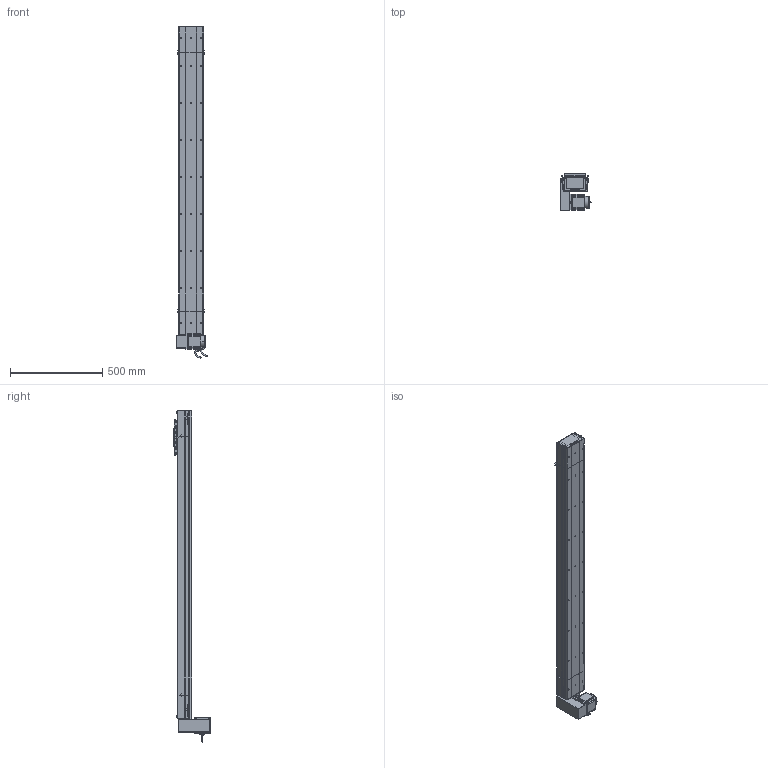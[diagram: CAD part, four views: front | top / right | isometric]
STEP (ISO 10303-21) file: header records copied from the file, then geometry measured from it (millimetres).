
FILE_DESCRIPTION (( 'STEP AP214' ), '1' );
FILE_NAME ('D14 CBH S1400 RU.STEP', '2010-06-30T06:50:24', ( 'Conseil Régional Haute-Normandie' ), ( 'Conseil Régional Haute-Normandie' ), 'SwSTEP 2.0', 'SolidWorks 2010', '' );
FILE_SCHEMA (( 'AUTOMOTIVE_DESIGN' ));
Length unit declared in the file: millimetre
Products named in the file (28): chariot D14; chariot supérieur D14; charriot inférieur D14; Conecteur_Default; Conecteur2_Default; codeur GMB 90 70 310; corps GMB 90 70 310; avant GMB 90 70 310; GMB 90 70 310; Support moteur Head D14 CBH; plaque fermeture Head D14 CBH; vis CHC M7; plaque de bout Head D14 CBH; corps Head D14 CBH; Vis CHC M8; plaque de maintient CBH D14; couvercle Head D14 CBH; Head D14 CBH; Head D14 CBH RU; vis CHC M5; course CBH S1400; D14 CBH S1400 RU; Tail CBH D14 B; couvercle CBH S1400; corps CBH S1400; corps tail  CBH d14 B; couvercle tail CBH D14; plaque de bout tail CBH d14
Assembly tree (51 placements, depth 4):
  D14 CBH S1400 RU
    Head D14 CBH RU
      Support moteur Head D14 CBH
      plaque fermeture Head D14 CBH  x3
      GMB 90 70 310
        codeur GMB 90 70 310
        Conecteur2_Default
        Conecteur_Default
        avant GMB 90 70 310
        corps GMB 90 70 310
      Head D14 CBH
        plaque de maintient CBH D14
        plaque de bout Head D14 CBH
        Vis CHC M8  x2
        vis CHC M7  x4
        corps Head D14 CBH
        couvercle Head D14 CBH
    chariot D14
      vis CHC M7  x8
      vis CHC M5  x4
      chariot supérieur D14
      charriot inférieur D14
    Tail CBH D14 B
      Vis CHC M8  x2
      corps tail  CBH d14 B
      vis CHC M7  x4
      plaque de maintient CBH D14
      couvercle tail CBH D14
      plaque de bout tail CBH d14
    course CBH S1400
      couvercle CBH S1400
      corps CBH S1400
Bounding box: 171.5 x 195.75 x 1795.95 mm (x, y, z)
Volume: 5580148.6 mm3; surface area: 1775422.4 mm2
Topology: 51 solids, 51 shells, 2474 faces, 6384 edges, 4196 vertices
Faces by surface type: plane 1371, bspline 538, cylinder 452, torus 61, cone 48, sphere 4
Entity records: 109653 total; most frequent: CARTESIAN_POINT 58232, ORIENTED_EDGE 11064, DIRECTION 8379, EDGE_CURVE 5532, VECTOR 3677, LINE 3677, VERTEX_POINT 3660, EDGE_LOOP 2366
